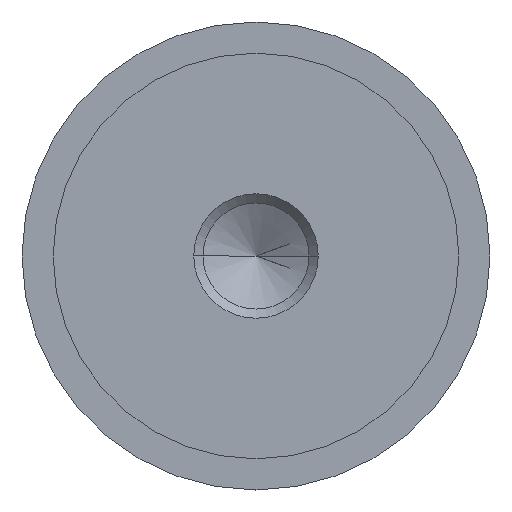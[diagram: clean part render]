
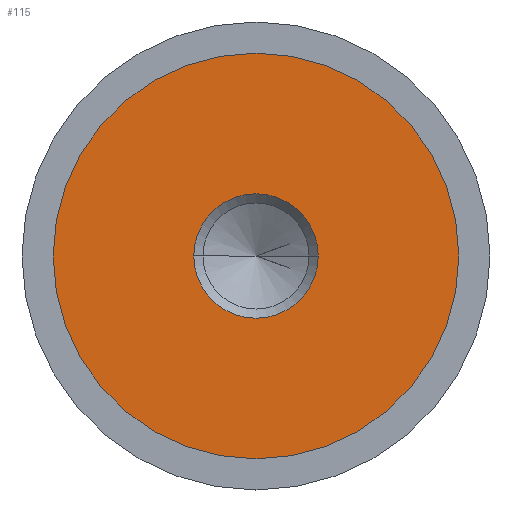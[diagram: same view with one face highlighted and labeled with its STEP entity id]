
A CAD part, left-side view. The second image highlights one B-rep face of the part: STEP entity #115.
In plain terms, the highlighted planar face has unit normal (-1, 0, 0).
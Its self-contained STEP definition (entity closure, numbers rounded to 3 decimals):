
#9 = DIRECTION ( 'NONE',  ( 1., 0., 0. ) ) ;
#11 = VERTEX_POINT ( 'NONE', #254 ) ;
#15 = ORIENTED_EDGE ( 'NONE', *, *, #609, .T. ) ;
#39 = AXIS2_PLACEMENT_3D ( 'NONE', #430, #295, #75 ) ;
#42 = CARTESIAN_POINT ( 'NONE',  ( -9.99, 13., 0. ) ) ;
#68 = EDGE_LOOP ( 'NONE', ( #488, #171 ) ) ;
#75 = DIRECTION ( 'NONE',  ( 0., 0., -1. ) ) ;
#115 = ADVANCED_FACE ( 'NONE', ( #512, #709 ), #158, .F. ) ;
#132 = AXIS2_PLACEMENT_3D ( 'NONE', #542, #242, #192 ) ;
#158 = PLANE ( 'NONE',  #469 ) ;
#171 = ORIENTED_EDGE ( 'NONE', *, *, #692, .T. ) ;
#176 = AXIS2_PLACEMENT_3D ( 'NONE', #726, #607, #734 ) ;
#192 = DIRECTION ( 'NONE',  ( 0., 0., 1. ) ) ;
#242 = DIRECTION ( 'NONE',  ( -1., 0., 0. ) ) ;
#244 = EDGE_LOOP ( 'NONE', ( #15, #771 ) ) ;
#248 = CIRCLE ( 'NONE', #39, 3.99 ) ;
#254 = CARTESIAN_POINT ( 'NONE',  ( -9.99, 0., -13. ) ) ;
#295 = DIRECTION ( 'NONE',  ( 1., 0., 0. ) ) ;
#309 = CARTESIAN_POINT ( 'NONE',  ( -9.99, 3.99, 0. ) ) ;
#319 = EDGE_CURVE ( 'NONE', #707, #661, #322, .T. ) ;
#322 = CIRCLE ( 'NONE', #778, 3.99 ) ;
#339 = CIRCLE ( 'NONE', #176, 13. ) ;
#353 = CIRCLE ( 'NONE', #132, 13. ) ;
#418 = DIRECTION ( 'NONE',  ( 0., 0., -1. ) ) ;
#421 = CARTESIAN_POINT ( 'NONE',  ( -9.99, 0., 13. ) ) ;
#430 = CARTESIAN_POINT ( 'NONE',  ( -9.99, 0., 0. ) ) ;
#469 = AXIS2_PLACEMENT_3D ( 'NONE', #42, #759, #522 ) ;
#488 = ORIENTED_EDGE ( 'NONE', *, *, #644, .T. ) ;
#512 = FACE_BOUND ( 'NONE', #244, .T. ) ;
#522 = DIRECTION ( 'NONE',  ( 0., 0., -1. ) ) ;
#532 = CARTESIAN_POINT ( 'NONE',  ( -9.99, 0., 0. ) ) ;
#542 = CARTESIAN_POINT ( 'NONE',  ( -9.99, 0., 0. ) ) ;
#607 = DIRECTION ( 'NONE',  ( -1., 0., 0. ) ) ;
#609 = EDGE_CURVE ( 'NONE', #661, #707, #248, .T. ) ;
#613 = CARTESIAN_POINT ( 'NONE',  ( -9.99, -3.99, 0. ) ) ;
#644 = EDGE_CURVE ( 'NONE', #648, #11, #353, .T. ) ;
#648 = VERTEX_POINT ( 'NONE', #421 ) ;
#661 = VERTEX_POINT ( 'NONE', #613 ) ;
#692 = EDGE_CURVE ( 'NONE', #11, #648, #339, .T. ) ;
#707 = VERTEX_POINT ( 'NONE', #309 ) ;
#709 = FACE_OUTER_BOUND ( 'NONE', #68, .T. ) ;
#726 = CARTESIAN_POINT ( 'NONE',  ( -9.99, 0., 0. ) ) ;
#734 = DIRECTION ( 'NONE',  ( 0., 0., 1. ) ) ;
#759 = DIRECTION ( 'NONE',  ( 1., 0., 0. ) ) ;
#771 = ORIENTED_EDGE ( 'NONE', *, *, #319, .T. ) ;
#778 = AXIS2_PLACEMENT_3D ( 'NONE', #532, #9, #418 ) ;
